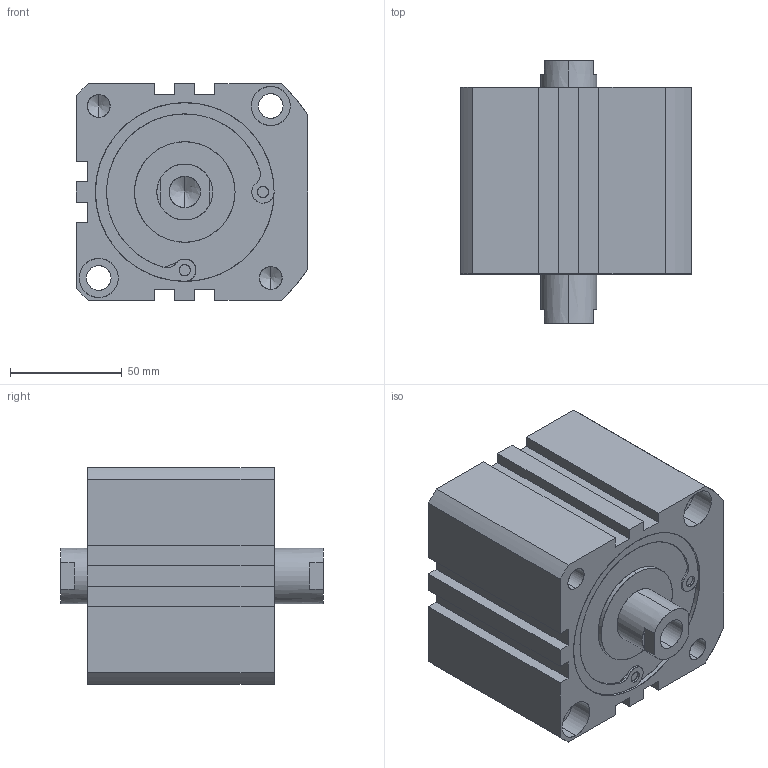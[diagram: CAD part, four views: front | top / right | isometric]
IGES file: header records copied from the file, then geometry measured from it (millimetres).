
Start section: SolidWorks IGES file using analytic representation for surfaces
Global section: file name: C:\Users\Toshiba\Desktop\XG#7-80D-10.IGS; native system: SolidWorks 2014; preprocessor: SolidWorks 2014; author: Toshiba; date: 160524.100102; units: millimetre
Bounding box: 103.5 x 117.5 x 97 mm (x, y, z)
Surface area: 74146.9 mm2 (no closed solid volume)
Topology: 0 solids, 0 shells, 142 faces, 2638 edges, 2622 vertices
Faces by surface type: revolution 86, bspline 56
